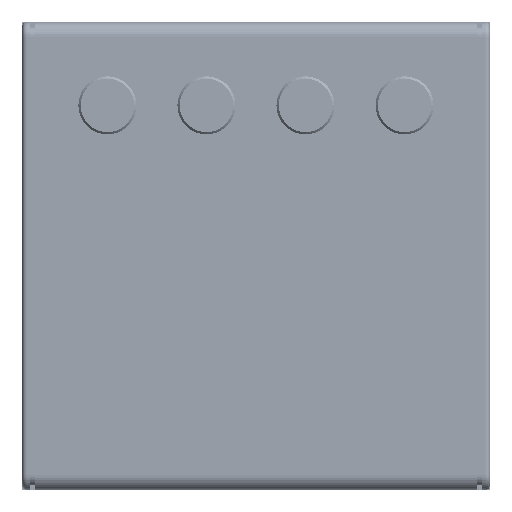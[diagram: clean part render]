
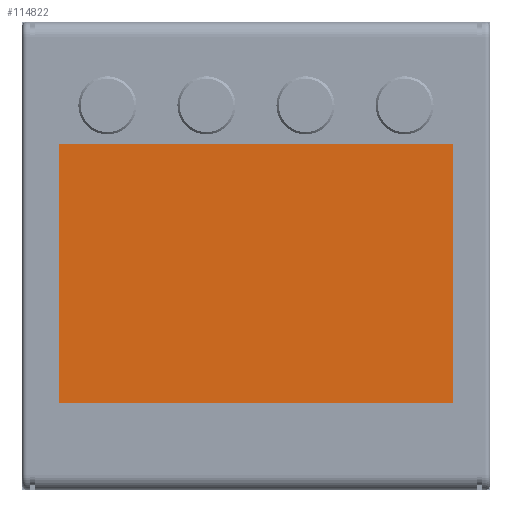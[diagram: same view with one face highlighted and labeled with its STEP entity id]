
A CAD part, front view. The second image highlights one B-rep face of the part: STEP entity #114822.
In plain terms, the highlighted planar face has unit normal (0, -1, 0) as drawn and (0, 1, 0) by its records, which use the part's own axes.
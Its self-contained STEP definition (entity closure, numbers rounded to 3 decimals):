
#113465=DIRECTION('',(-1.,0.,0.));
#113466=VECTOR('',#113465,40.5);
#113467=CARTESIAN_POINT('',(20.25,0.29,9.75));
#113468=LINE('',#113467,#113466);
#113486=DIRECTION('',(1.,0.,0.));
#113487=VECTOR('',#113486,40.5);
#113488=CARTESIAN_POINT('',(-20.25,0.29,-16.75));
#113489=LINE('',#113488,#113487);
#113500=DIRECTION('',(0.,0.,-1.));
#113501=VECTOR('',#113500,26.5);
#113502=CARTESIAN_POINT('',(-20.25,0.29,9.75));
#113503=LINE('',#113502,#113501);
#113514=DIRECTION('',(0.,0.,1.));
#113515=VECTOR('',#113514,26.5);
#113516=CARTESIAN_POINT('',(20.25,0.29,-16.75));
#113517=LINE('',#113516,#113515);
#114653=CARTESIAN_POINT('',(-20.25,0.29,-16.75));
#114654=CARTESIAN_POINT('',(20.25,0.29,-16.75));
#114655=VERTEX_POINT('',#114653);
#114656=VERTEX_POINT('',#114654);
#114657=CARTESIAN_POINT('',(20.25,0.29,9.75));
#114658=VERTEX_POINT('',#114657);
#114659=CARTESIAN_POINT('',(-20.25,0.29,9.75));
#114660=VERTEX_POINT('',#114659);
#114808=CARTESIAN_POINT('',(0.,0.29,0.));
#114809=DIRECTION('',(0.,-1.,0.));
#114810=DIRECTION('',(-1.,0.,0.));
#114811=AXIS2_PLACEMENT_3D('',#114808,#114809,#114810);
#114812=PLANE('',#114811);
#114814=ORIENTED_EDGE('',*,*,#114813,.T.);
#114816=ORIENTED_EDGE('',*,*,#114815,.T.);
#114817=ORIENTED_EDGE('',*,*,#114792,.T.);
#114819=ORIENTED_EDGE('',*,*,#114818,.T.);
#114820=EDGE_LOOP('',(#114814,#114816,#114817,#114819));
#114821=FACE_OUTER_BOUND('',#114820,.F.);
#114792=EDGE_CURVE('',#114658,#114660,#113468,.T.);
#114813=EDGE_CURVE('',#114655,#114656,#113489,.T.);
#114815=EDGE_CURVE('',#114656,#114658,#113517,.T.);
#114818=EDGE_CURVE('',#114660,#114655,#113503,.T.);
#114822=ADVANCED_FACE('',(#114821),#114812,.F.);
